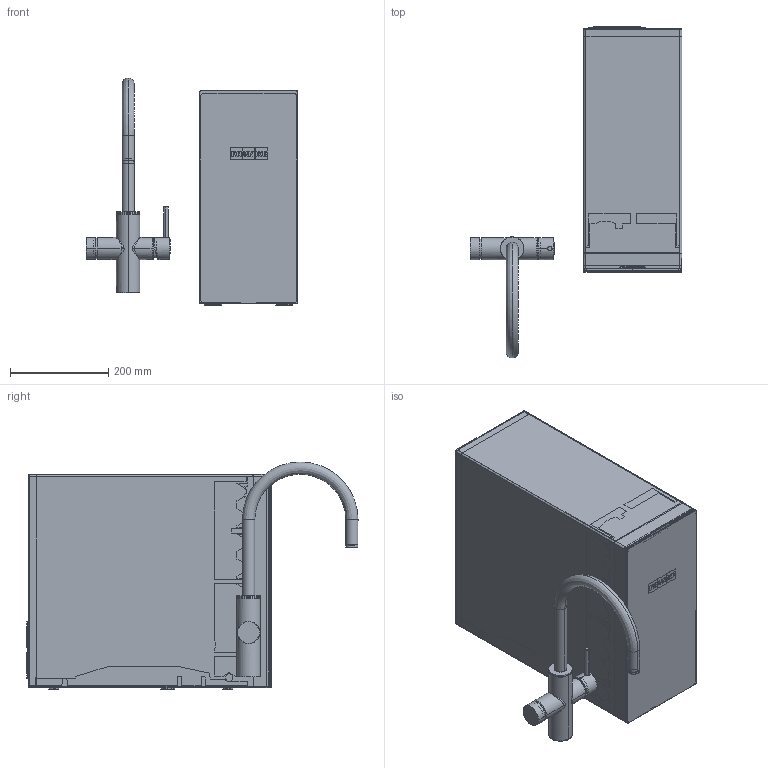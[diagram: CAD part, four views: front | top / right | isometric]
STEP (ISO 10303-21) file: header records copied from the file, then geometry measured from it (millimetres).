
FILE_DESCRIPTION(/* description */ (''),/* implementation_level */ '2;1');
FILE_NAME(/* name */ '3D001_Multifunctional-Taps_Mythos-Water-Hub_Swivel',/* time_stamp */ '2025-09-08T14:31:06+02:00',/* author */ (''),/* organization */ (''),/* preprocessor_version */ 'ST-DEVELOPER v19.2',/* originating_system */ 'Rhino 8.16',/* authorisation */ '');
FILE_SCHEMA (('CONFIG_CONTROL_DESIGN'));
Products named in the file (4): Document; 019115; 019368; LOGO_CALDO_FREDDO
Bounding box: 430.6 x 675.37 x 463.68 mm (x, y, z)
Volume: 237212.7 mm3; surface area: 1740187.5 mm2
Topology: 25 solids, 174 shells, 4691 faces, 13599 edges, 9307 vertices
Faces by surface type: plane 2617, cylinder 1134, bspline 940
Full cylindrical faces by diameter (mm): 1.097 x2, 1.348 x1, 4.457 x1, 4.947 x1, 7.986 x1
Entity records: 188411 total; most frequent: CARTESIAN_POINT 97058, ORIENTED_EDGE 23183, EDGE_CURVE 12562, B_SPLINE_CURVE_WITH_KNOTS 9711, VERTEX_POINT 8665, DIRECTION 8155, AXIS2_PLACEMENT_3D 5845, EDGE_LOOP 4849
